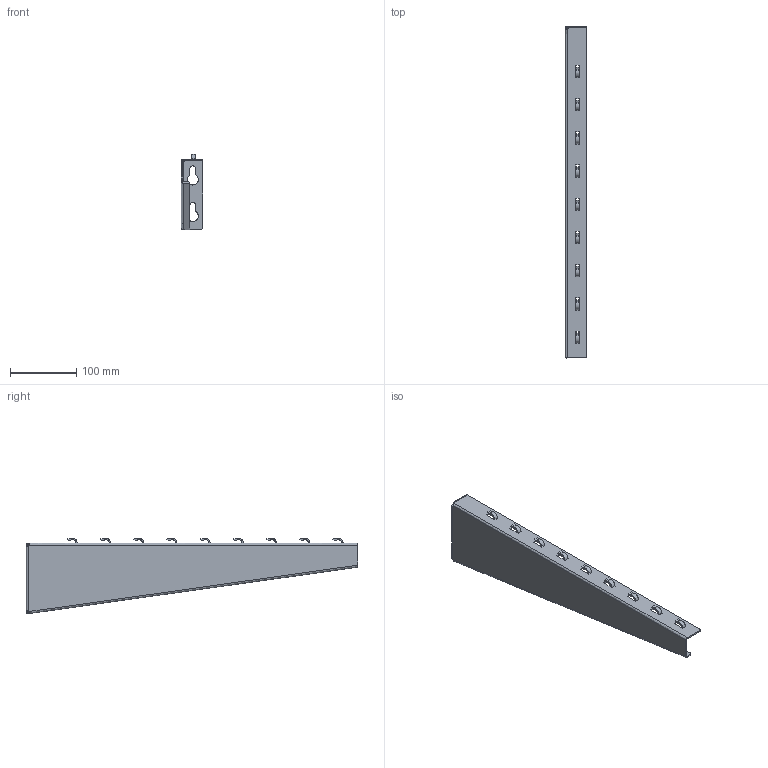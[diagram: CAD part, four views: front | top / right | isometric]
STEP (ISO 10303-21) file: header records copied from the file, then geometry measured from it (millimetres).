
FILE_DESCRIPTION(/* description */ (''),/* implementation_level */ '2;1');
FILE_NAME(/* name */ 'NZM500',/* time_stamp */ '2025-03-13T20:57:01+01:00',/* author */ (''),/* organization */ (''),/* preprocessor_version */ 'ST-DEVELOPER v16.5',/* originating_system */ '',/* authorisation */ '');
FILE_SCHEMA (('CONFIG_CONTROL_DESIGN'));
Length unit declared in the file: millimetre
Products named in the file (1): Document
Bounding box: 32.52 x 499.74 x 113.49 mm (x, y, z)
Volume: 89086.2 mm3; surface area: 118613.6 mm2
Topology: 1 solids, 10 shells, 204 faces, 555 edges, 362 vertices
Faces by surface type: plane 90, bspline 60, cylinder 54
Entity records: 6291 total; most frequent: CARTESIAN_POINT 2863, ORIENTED_EDGE 1074, EDGE_CURVE 555, VERTEX_POINT 362, EDGE_LOOP 226, B_SPLINE_CURVE_WITH_KNOTS 225, ADVANCED_FACE 204, FACE_OUTER_BOUND 204
